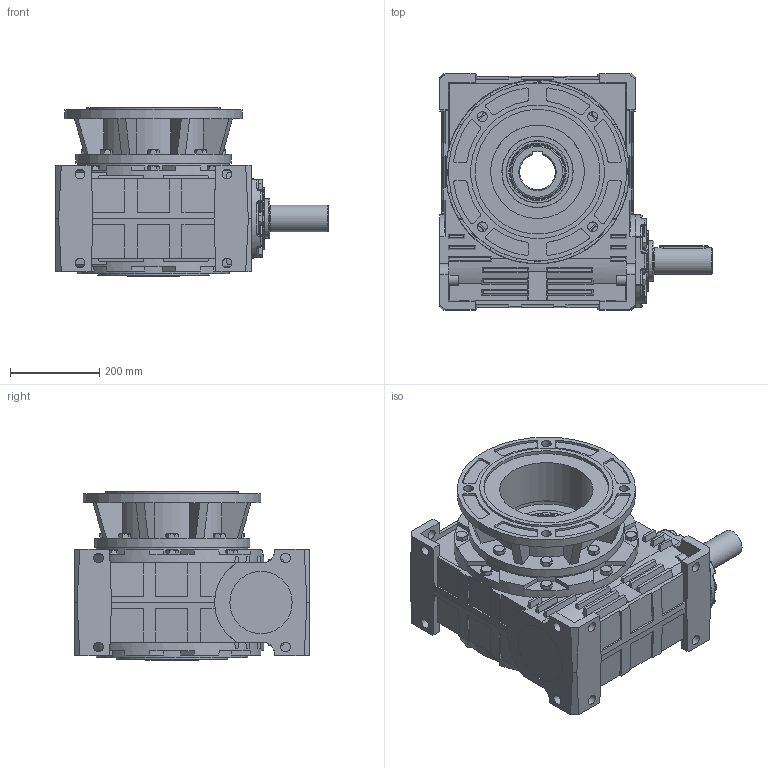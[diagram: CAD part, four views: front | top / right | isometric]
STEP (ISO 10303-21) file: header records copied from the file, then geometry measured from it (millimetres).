
FILE_DESCRIPTION (( 'STEP AP203' ), '1' );
FILE_NAME ('R-200_WBS_K400_2_3D.STEP', '2018-11-19T06:54:11', ( 'Biuro' ), ( 'Microsoft' ), 'SwSTEP 2.0', 'SolidWorks 2013', '' );
FILE_SCHEMA (( 'CONFIG_CONTROL_DESIGN' ));
Length unit declared in the file: millimetre
Products named in the file (1): R-200_WBS_K400_2_3D
Bounding box: 613 x 530 x 379 mm (x, y, z)
Volume: 51878724.6 mm3; surface area: 1836595.2 mm2
Topology: 1 solids, 37 shells, 1601 faces, 3951 edges, 2473 vertices
Faces by surface type: plane 895, cone 299, cylinder 269, bspline 61, torus 49, sphere 28
Full cylindrical faces by diameter (mm): 14 x17, 16 x14, 17 x15, 22 x16, 24 x22, 59.6 x1, 60 x1, 90 x2, 110 x1, 120 x2, 140 x3, 210 x1, 240 x1, 250 x2, 280 x1, 300 x1, 350 x1, 400 x1
Entity records: 49372 total; most frequent: CARTESIAN_POINT 13225, DIRECTION 7422, ORIENTED_EDGE 7340, EDGE_CURVE 3670, AXIS2_PLACEMENT_3D 2774, VERTEX_POINT 2369, EDGE_LOOP 1893, VECTOR 1874
